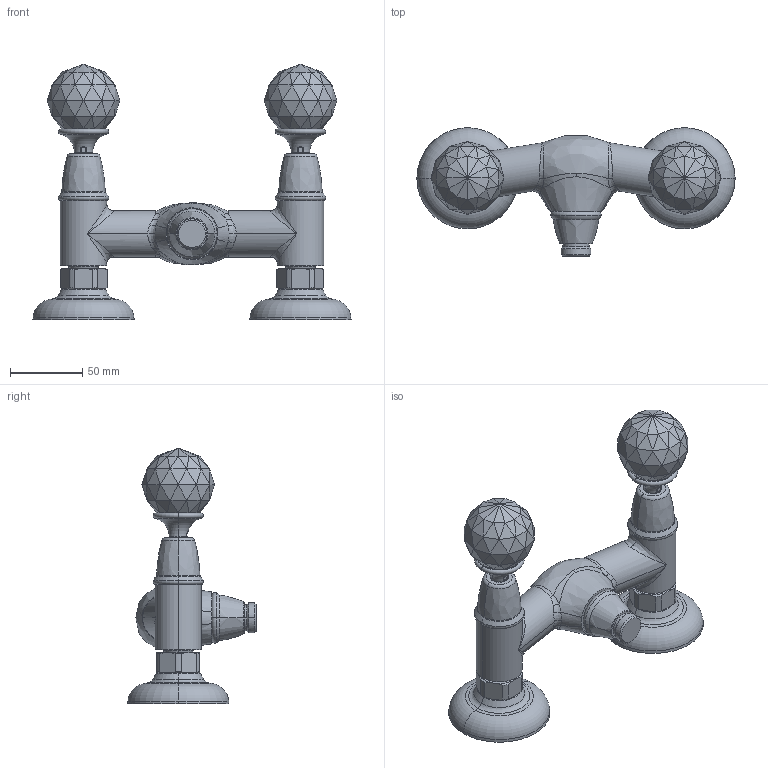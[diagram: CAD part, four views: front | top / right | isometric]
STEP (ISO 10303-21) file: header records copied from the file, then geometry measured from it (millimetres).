
FILE_DESCRIPTION((''),'2;1');
FILE_NAME('3D_SW0001','2013-07-24T',('ivanv'),(''),'PRO/ENGINEER BY PARAMETRIC TECHNOLOGY CORPORATION, 2012130','PRO/ENGINEER BY PARAMETRIC TECHNOLOGY CORPORATION, 2012130','');
FILE_SCHEMA(('CONFIG_CONTROL_DESIGN'));
Length unit declared in the file: millimetre
Products named in the file (1): 3D_SW0001
Bounding box: 220 x 89 x 176.93 mm (x, y, z)
Volume: 529328.7 mm3; surface area: 76944.8 mm2
Topology: 3 solids, 5 shells, 482 faces, 910 edges, 452 vertices
Faces by surface type: plane 279, cone 64, cylinder 48, torus 48, bspline 43
Entity records: 16750 total; most frequent: CARTESIAN_POINT 7549, DIRECTION 1926, ORIENTED_EDGE 1820, EDGE_CURVE 910, AXIS2_PLACEMENT_3D 722, EDGE_LOOP 500, VECTOR 482, LINE 482
